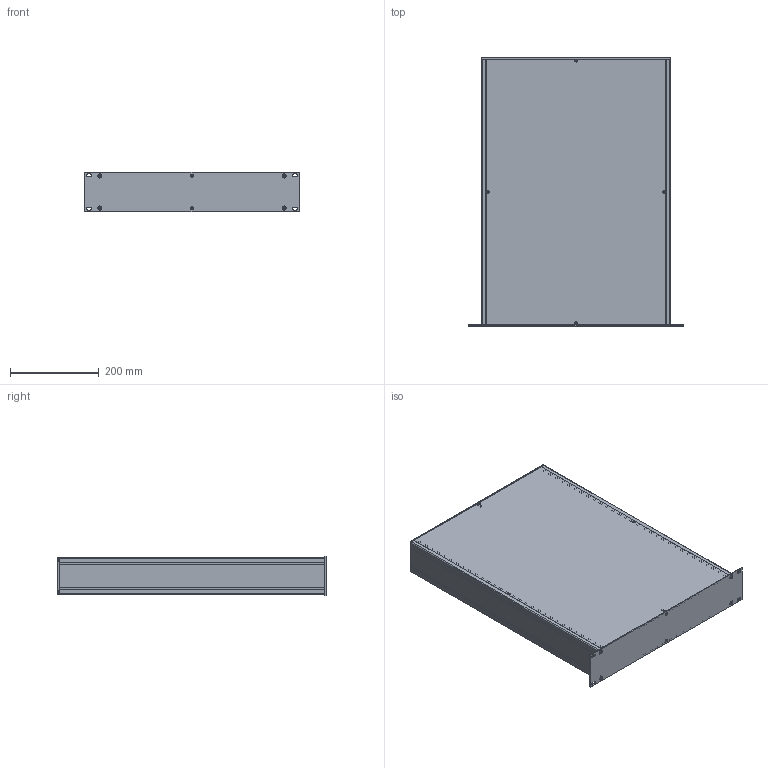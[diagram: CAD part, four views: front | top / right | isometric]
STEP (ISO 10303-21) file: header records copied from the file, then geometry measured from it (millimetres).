
FILE_DESCRIPTION(/* description */ (''),/* implementation_level */ '2;1');
FILE_NAME(/* name */ '//diskstation/Kunden/Gehäuse/Gehäuse/2HE/step/Zoll 2HE Rack Gehäuse Tiefe-600.step',/* time_stamp */ '2022-02-17T15:33:49+01:00',/* author */ (''),/* organization */ (''),/* preprocessor_version */ 'ST-DEVELOPER v18.1',/* originating_system */ 'Autodesk Translation Framework v10.10.0.1391',/* authorisation */ '');
FILE_SCHEMA (('AUTOMOTIVE_DESIGN { 1 0 10303 214 3 1 1 }'));
Length unit declared in the file: millimetre
Products named in the file (28): 2HE Gehäuse mit parametern; Gehäuse; Gehäuseprofil 1 unten links; Gehäuseprofil 2 oben rechts; Gehäuseprofil 1 unten rechts; Gehäuseprofil 2 oben links; Rückplatte; Deckel; Seitenteil links; Seitenteil rechts; Bodenplatte; Montageklotz Front/Deckel; Montageklotz Front/Boden; Montageklotz Rück/Deckel; Montageklotz Rück/Boden; Gewindestreifen; Frontplatte; Schrauben M5; Schraube Front; Schraube Front (1); Schraube Front (2); Schraube Front (3); Schraube Rück (1); Schraube Rück; Schraube Rück (2); Schraube Rück (3); Schrauben M3; HI_Senkschraube DIN 965 A v2 M3x5 24677.030.005(High)
Assembly tree (37 placements, depth 3):
  2HE Gehäuse mit parametern
    Gehäuse
      Gehäuseprofil 1 unten links
      Gehäuseprofil 2 oben rechts
      Gehäuseprofil 1 unten rechts
      Gehäuseprofil 2 oben links
      Rückplatte
      Deckel
      Seitenteil links
      Seitenteil rechts
      Bodenplatte
      Montageklotz Front/Deckel
      Montageklotz Front/Boden
      Montageklotz Rück/Deckel
      Montageklotz Rück/Boden
      Gewindestreifen  x2
    Frontplatte
    Schrauben M5
      Schraube Front
      Schraube Front (1)
      Schraube Front (2)
      Schraube Front (3)
      Schraube Rück (1)
      Schraube Rück
      Schraube Rück (2)
      Schraube Rück (3)
    Schrauben M3
      HI_Senkschraube DIN 965 A v2 M3x5 24677.030.005(High)  x10
Bounding box: 483 x 608.2 x 88.1 mm (x, y, z)
Volume: 1721687.7 mm3; surface area: 1546533.3 mm2
Topology: 34 solids, 34 shells, 944 faces, 2346 edges, 1470 vertices
Faces by surface type: cylinder 422, plane 342, cone 164, torus 8, bspline 8
Full cylindrical faces by diameter (mm): 2.529 x180, 3 x10, 3.2 x10, 4.234 x40, 5 x8, 5.2 x8, 5.3 x4, 5.6 x10, 9.5 x8
Entity records: 18600 total; most frequent: CARTESIAN_POINT 3348, DIRECTION 3135, ORIENTED_EDGE 2760, EDGE_CURVE 1380, AXIS2_PLACEMENT_3D 1195, VERTEX_POINT 868, EDGE_LOOP 866, LINE 745
